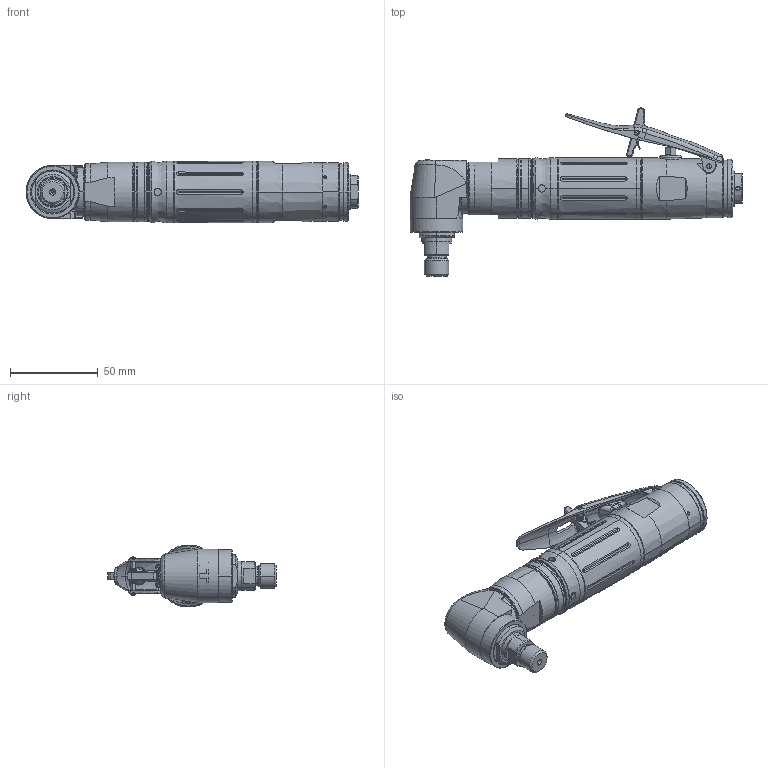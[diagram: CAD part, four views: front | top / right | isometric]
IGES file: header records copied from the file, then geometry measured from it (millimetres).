
Start section:  PTC IGES file: 6151705250.igs
Global section: file name: 6151705250.igs; native system: Creo Parametric by PTC Inc.; preprocessor: 2017020; author: greextsd; organization: Unknown; date: 20170515.165627; units: millimetre
Bounding box: 189.65 x 96.03 x 35.4 mm (x, y, z)
Volume: 99857 mm3; surface area: 67773.7 mm2
Topology: 5 solids, 5 shells, 1715 faces, 4524 edges, 2735 vertices
Faces by surface type: revolution 1041, bspline 674
